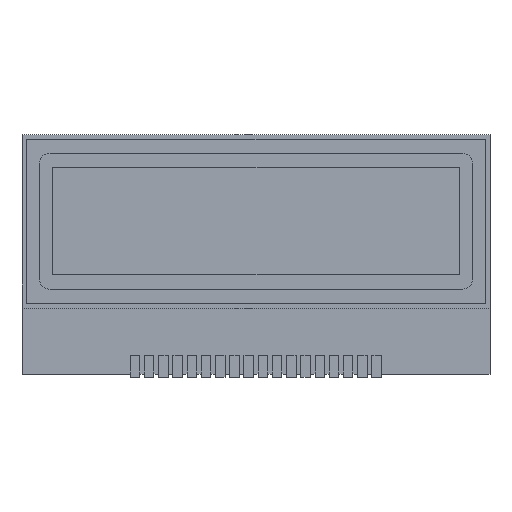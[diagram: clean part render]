
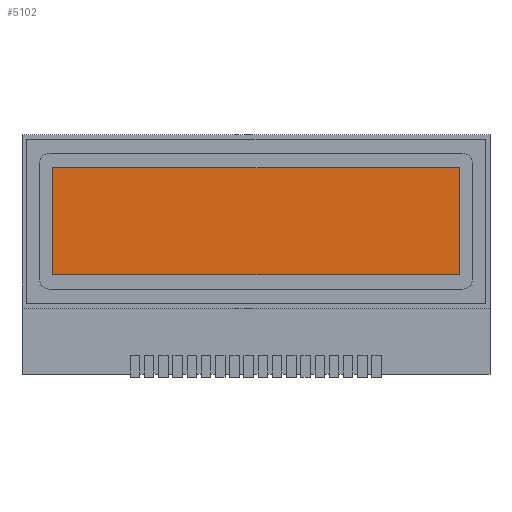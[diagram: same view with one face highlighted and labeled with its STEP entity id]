
A CAD part, top view. The second image highlights one B-rep face of the part: STEP entity #5102.
In plain terms, the highlighted planar face has unit normal (0, 0, 1).
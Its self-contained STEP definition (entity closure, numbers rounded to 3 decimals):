
#137 = VERTEX_POINT ( 'NONE', #5475 ) ;
#252 = VECTOR ( 'NONE', #6227, 1000. ) ;
#881 = EDGE_CURVE ( 'NONE', #7227, #3728, #7827, .T. ) ;
#913 = ORIENTED_EDGE ( 'NONE', *, *, #6005, .T. ) ;
#1312 = FACE_OUTER_BOUND ( 'NONE', #2669, .T. ) ;
#1377 = DIRECTION ( 'NONE',  ( 0., -1., 0. ) ) ;
#1536 = EDGE_CURVE ( 'NONE', #5769, #137, #5834, .T. ) ;
#2366 = CARTESIAN_POINT ( 'NONE',  ( -21.43, 9.16, 1.5 ) ) ;
#2600 = CARTESIAN_POINT ( 'NONE',  ( 0., 0., 1.5 ) ) ;
#2669 = EDGE_LOOP ( 'NONE', ( #3579, #7136, #5978, #913 ) ) ;
#3164 = CARTESIAN_POINT ( 'NONE',  ( 21.43, 9.16, 1.5 ) ) ;
#3579 = ORIENTED_EDGE ( 'NONE', *, *, #881, .T. ) ;
#3644 = LINE ( 'NONE', #2366, #252 ) ;
#3728 = VERTEX_POINT ( 'NONE', #6943 ) ;
#4007 = CARTESIAN_POINT ( 'NONE',  ( -21.43, 9.16, 1.5 ) ) ;
#4109 = VECTOR ( 'NONE', #1377, 1000. ) ;
#4331 = LINE ( 'NONE', #8119, #5823 ) ;
#4970 = VECTOR ( 'NONE', #6988, 1000. ) ;
#5102 = ADVANCED_FACE ( 'NONE', ( #1312 ), #7055, .T. ) ;
#5136 = DIRECTION ( 'NONE',  ( 0., 0., 1. ) ) ;
#5475 = CARTESIAN_POINT ( 'NONE',  ( 21.43, 9.16, 1.5 ) ) ;
#5769 = VERTEX_POINT ( 'NONE', #6063 ) ;
#5823 = VECTOR ( 'NONE', #7614, 1000. ) ;
#5834 = LINE ( 'NONE', #3164, #4970 ) ;
#5978 = ORIENTED_EDGE ( 'NONE', *, *, #1536, .T. ) ;
#6005 = EDGE_CURVE ( 'NONE', #137, #7227, #3644, .T. ) ;
#6063 = CARTESIAN_POINT ( 'NONE',  ( 21.43, -2.16, 1.5 ) ) ;
#6227 = DIRECTION ( 'NONE',  ( -1., 0., 0. ) ) ;
#6265 = DIRECTION ( 'NONE',  ( 1., 0., 0. ) ) ;
#6649 = CARTESIAN_POINT ( 'NONE',  ( -21.43, 9.16, 1.5 ) ) ;
#6943 = CARTESIAN_POINT ( 'NONE',  ( -21.43, -2.16, 1.5 ) ) ;
#6988 = DIRECTION ( 'NONE',  ( 0., 1., 0. ) ) ;
#7055 = PLANE ( 'NONE',  #7936 ) ;
#7136 = ORIENTED_EDGE ( 'NONE', *, *, #7858, .T. ) ;
#7227 = VERTEX_POINT ( 'NONE', #6649 ) ;
#7614 = DIRECTION ( 'NONE',  ( 1., 0., 0. ) ) ;
#7827 = LINE ( 'NONE', #4007, #4109 ) ;
#7858 = EDGE_CURVE ( 'NONE', #3728, #5769, #4331, .T. ) ;
#7936 = AXIS2_PLACEMENT_3D ( 'NONE', #2600, #5136, #6265 ) ;
#8119 = CARTESIAN_POINT ( 'NONE',  ( -21.43, -2.16, 1.5 ) ) ;
